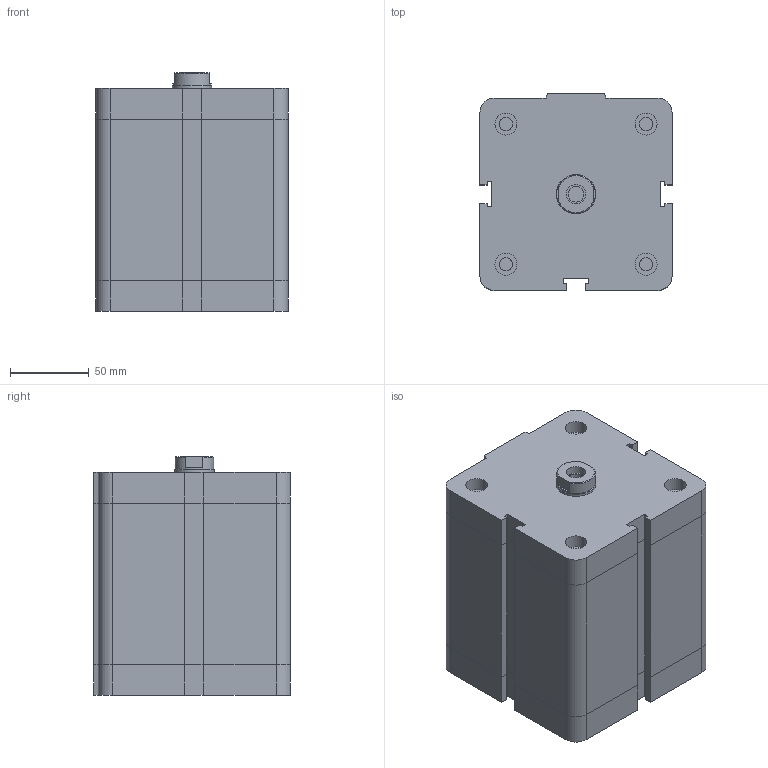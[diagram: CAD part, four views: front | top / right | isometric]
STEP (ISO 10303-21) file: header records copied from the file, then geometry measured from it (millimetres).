
FILE_DESCRIPTION((''),'2;1');
FILE_NAME('I:\Area Tecnica\Disegni\VARIE-3D\Componenti\EUROPE\15##_###_####_01_#\1561_100_0075_01_1.stp','2008-12-19T15:36:17',('rivolro1'),(''),'Autodesk Inventor 2009','Autodesk Inventor 2009','');
FILE_SCHEMA(('AUTOMOTIVE_DESIGN { 1 0 10303 214 1 1 1 1 }'));
Length unit declared in the file: millimetre
Products named in the file (3): 1561_100_0075_01_1; 1561_100_0075_01_1_C; 1561_100_0075_01_1_S
Assembly tree (2 placements, depth 2):
  1561_100_0075_01_1
    1561_100_0075_01_1_C
    1561_100_0075_01_1_S
Bounding box: 122 x 125 x 151.5 mm (x, y, z)
Volume: 2052143 mm3; surface area: 130928.2 mm2
Topology: 2 solids, 2 shells, 163 faces, 349 edges, 211 vertices
Faces by surface type: plane 112, bspline 26, cylinder 22, cone 3
Full cylindrical faces by diameter (mm): 8.376 x4, 14 x4, 24.5 x1, 25 x1
Entity records: 4455 total; most frequent: CARTESIAN_POINT 952, DIRECTION 662, ORIENTED_EDGE 630, EDGE_CURVE 315, VECTOR 244, LINE 244, AXIS2_PLACEMENT_3D 209, EDGE_LOOP 208
